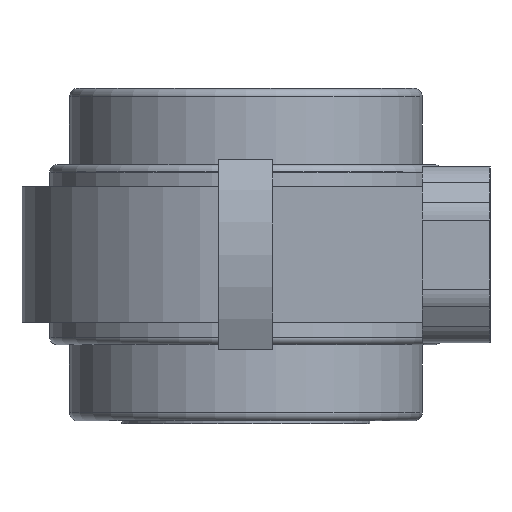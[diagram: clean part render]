
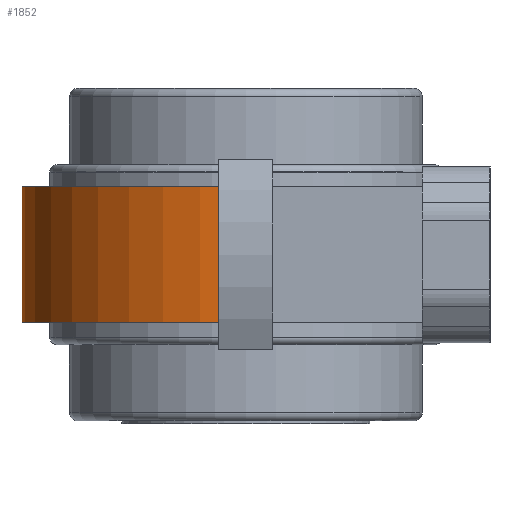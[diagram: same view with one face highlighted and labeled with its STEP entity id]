
A CAD part, left-side view. The second image highlights one B-rep face of the part: STEP entity #1852.
In plain terms, the highlighted cylindrical face has radius 33 mm (diameter 66 mm), a partial arc.
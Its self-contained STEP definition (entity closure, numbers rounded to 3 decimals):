
#1412=CARTESIAN_POINT('',(-32.977,1.239,-10.0));
#1413=VERTEX_POINT('',#1412);
#1420=CARTESIAN_POINT('',(32.977,1.239,-10.0));
#1421=VERTEX_POINT('',#1420);
#1422=CARTESIAN_POINT('',(0.0,0.0,-10.0));
#1423=DIRECTION('',(0.0,0.0,1.0));
#1424=DIRECTION('',(0.999,0.038,0.0));
#1425=AXIS2_PLACEMENT_3D('',#1422,#1423,#1424);
#1426=CIRCLE('',#1425,33.);
#1427=EDGE_CURVE('',#1421,#1413,#1426,.T.);
#1748=CARTESIAN_POINT('',(32.977,1.239,10.0));
#1749=VERTEX_POINT('',#1748);
#1756=CARTESIAN_POINT('',(-32.977,1.239,10.0));
#1757=VERTEX_POINT('',#1756);
#1758=CARTESIAN_POINT('',(0.0,0.0,10.0));
#1759=DIRECTION('',(0.0,0.0,-1.0));
#1760=DIRECTION('',(0.999,0.038,0.0));
#1761=AXIS2_PLACEMENT_3D('',#1758,#1759,#1760);
#1762=CIRCLE('',#1761,33.);
#1763=EDGE_CURVE('',#1757,#1749,#1762,.T.);
#1814=CARTESIAN_POINT('',(32.977,1.239,-10.0));
#1815=DIRECTION('',(0.0,0.0,1.0));
#1816=VECTOR('',#1815,20.0);
#1817=LINE('',#1814,#1816);
#1818=EDGE_CURVE('',#1421,#1749,#1817,.T.);
#1831=CARTESIAN_POINT('',(-32.977,1.239,-10.0));
#1832=DIRECTION('',(0.0,0.0,1.0));
#1833=VECTOR('',#1832,20.0);
#1834=LINE('',#1831,#1833);
#1835=EDGE_CURVE('',#1413,#1757,#1834,.T.);
#1841=CARTESIAN_POINT('',(0.0,0.0,0.0));
#1842=DIRECTION('',(0.0,0.0,1.0));
#1843=DIRECTION('',(0.999,0.038,0.0));
#1844=AXIS2_PLACEMENT_3D('',#1841,#1842,#1843);
#1845=CYLINDRICAL_SURFACE('',#1844,33.);
#1846=ORIENTED_EDGE('',*,*,#1763,.T.);
#1847=ORIENTED_EDGE('',*,*,#1818,.F.);
#1848=ORIENTED_EDGE('',*,*,#1427,.T.);
#1849=ORIENTED_EDGE('',*,*,#1835,.T.);
#1850=EDGE_LOOP('',(#1846,#1847,#1848,#1849));
#1851=FACE_OUTER_BOUND('',#1850,.T.);
#1852=ADVANCED_FACE('',(#1851),#1845,.T.);
